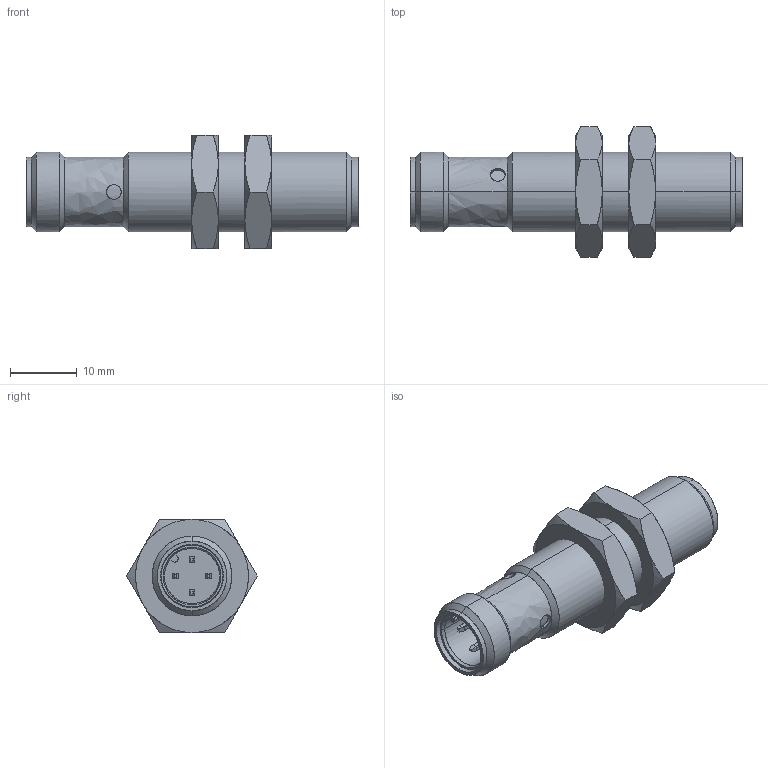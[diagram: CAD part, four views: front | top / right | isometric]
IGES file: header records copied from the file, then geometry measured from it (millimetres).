
Start section: Comment
Global section: file name: IFRD 12xxxA3_S14L.igs; native system:  By Spatial Corp.; preprocessor: XPlus GENERIC/IGES 3.0; author: Author; organization: Title; date: 20060328.111319; units: inch
Bounding box: 49.9 x 19.63 x 17 mm (x, y, z)
Surface area: 4207.5 mm2 (no closed solid volume)
Topology: 0 solids, 0 shells, 164 faces, 796 edges, 796 vertices
Faces by surface type: bspline 164
